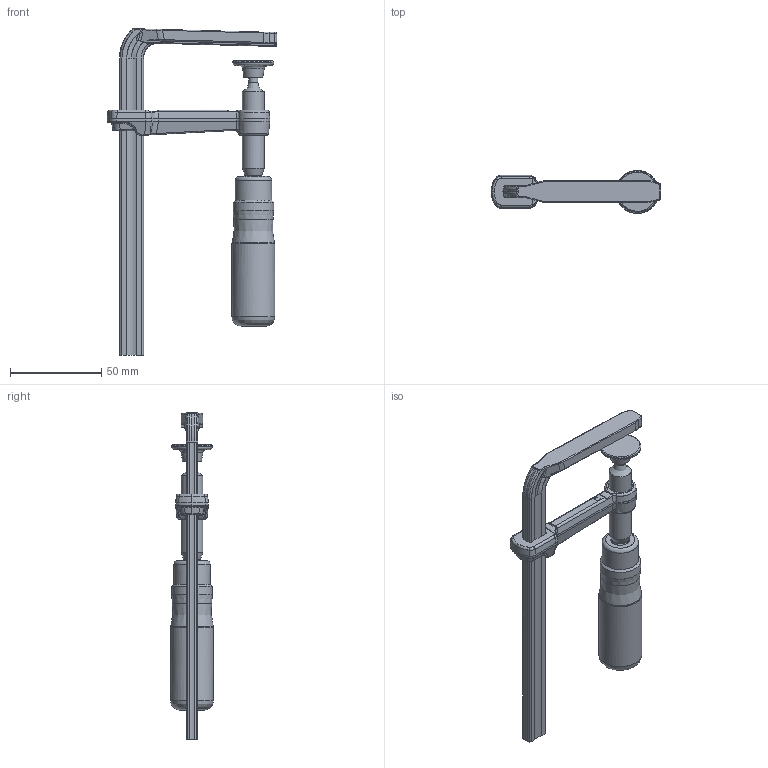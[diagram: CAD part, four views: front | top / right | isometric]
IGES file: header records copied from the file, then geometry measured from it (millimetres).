
Start section: ZWSOFT
Global section: file name: GTR12.igs; native system: ZW3D; preprocessor: 1.0; author: ZW3D; organization: ZWSOFT; date: 160211.155504; units: millimetre
Bounding box: 93.01 x 23.5 x 179.06 mm (x, y, z)
Surface area: 25552.1 mm2 (no closed solid volume)
Topology: 0 solids, 0 shells, 487 faces, 2476 edges, 2420 vertices
Faces by surface type: bspline 487
